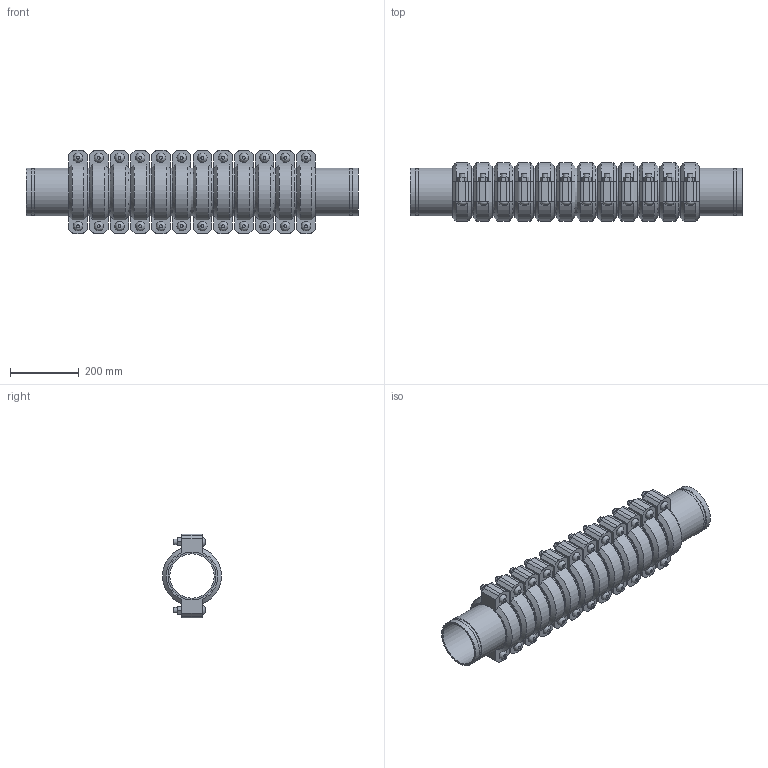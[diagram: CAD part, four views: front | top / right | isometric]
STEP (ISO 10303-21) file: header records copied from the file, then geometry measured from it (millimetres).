
FILE_DESCRIPTION(/* description */ ('VIC EXPANSION JOINT 12 COUPLINGS COMPRESSED STYLE 155 (OGS)','CAx-IF Rec.Pracs.---Representation and Presentation of Product Manufacturing Information (PMI)---4.0---2014-10-13'),/* implementation_level */ '2;1');
FILE_NAME(/* name */ 'C:\Users\kkamble\AppData\Roaming\Autodesk\ApplicationPlugins\Victaulic.Temp\A100\Victaulic_IPS_Expansion Joint_Compressed_12 Couplings_Style 155 (OGS)_05.0 (139.7) (125).stp',/* time_stamp */ '2021-06-27T00:21:38+02:00',/* author */ ('kkamble'),/* organization */ ('Victaulic'),/* preprocessor_version */ 'ST-DEVELOPER v17.2',/* originating_system */ 'Autodesk Inventor 2019',/* authorisation */ '');
FILE_SCHEMA (('AP242_MANAGED_MODEL_BASED_3D_ENGINEERING_MIM_LF { 1 0 10303 442 1 1 4 }'));
Length unit declared in the file: inch
Products named in the file (4): 155-05.0 (139.7); Nipple-05.0 (139.7); Nipple-05.0 (139.7)_1; 075_12_Coup05.0 (139.7)
Assembly tree (25 placements, depth 2):
  155-05.0 (139.7)
    Nipple-05.0 (139.7)  x2
    Nipple-05.0 (139.7)_1  x11
    075_12_Coup05.0 (139.7)  x12
Bounding box: 969.01 x 172.14 x 243.59 mm (x, y, z)
Volume: 9448867.4 mm3; surface area: 2096070.4 mm2
Topology: 25 solids, 49 shells, 840 faces, 1986 edges, 1392 vertices
Faces by surface type: plane 510, cylinder 258, cone 48, bspline 24
Full cylindrical faces by diameter (mm): 15.875 x48, 17.424 x24, 129.388 x13, 133.35 x12, 135.484 x26, 139.7 x63
Entity records: 2922 total; most frequent: CARTESIAN_POINT 509, DIRECTION 493, ORIENTED_EDGE 386, AXIS2_PLACEMENT_3D 200, EDGE_CURVE 193, VERTEX_POINT 138, EDGE_LOOP 107, LINE 93
